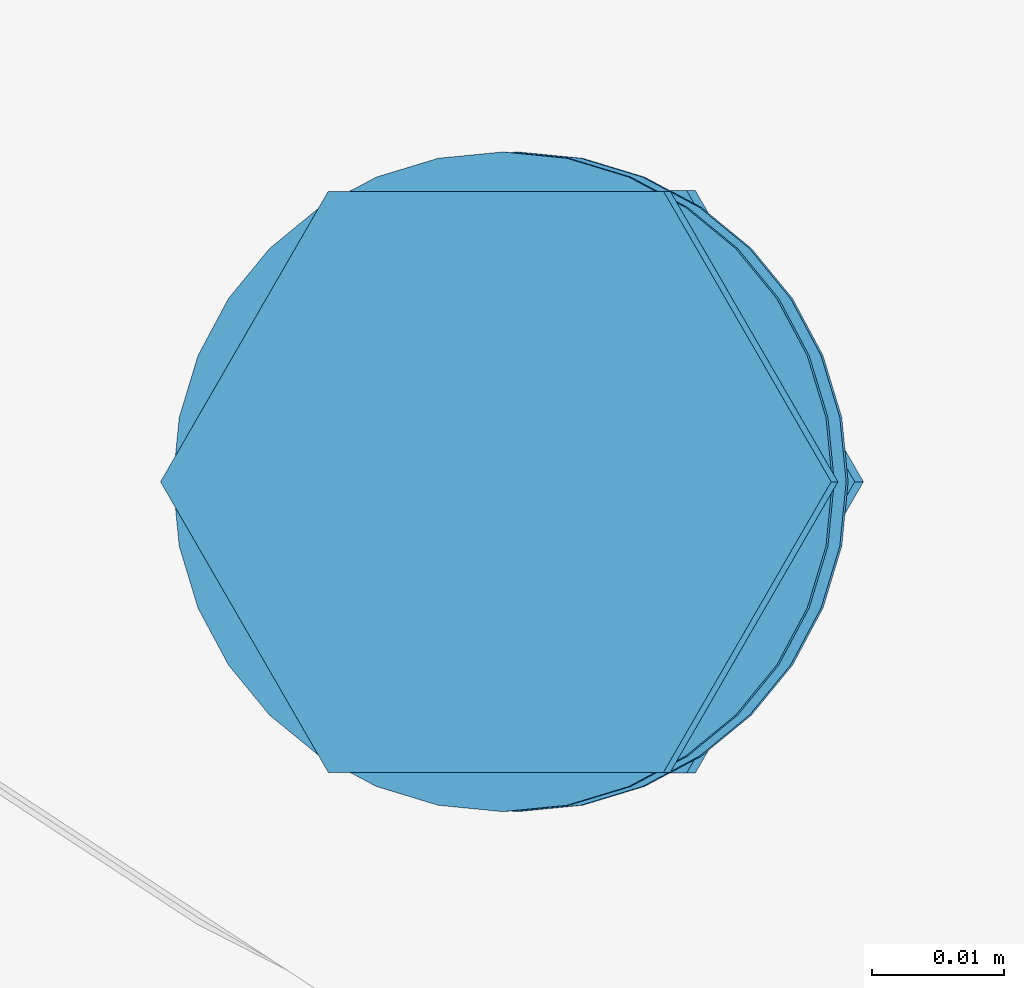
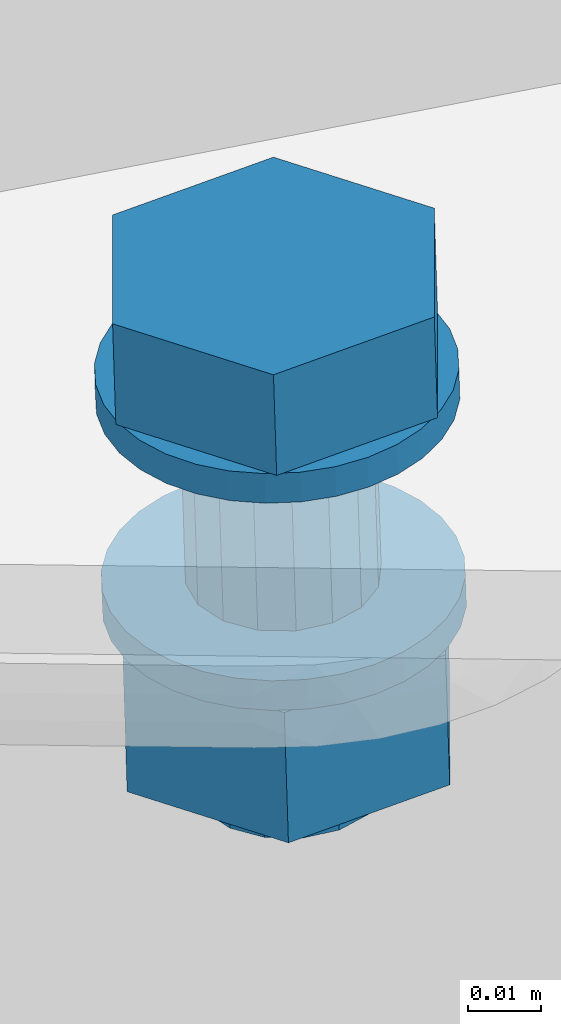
# One storey, part 136 of 476: 1 mechanical fastener.
"""IFC2X3 building model written with IfcOpenShell, lengths in millimetres."""

from ifc_helpers import new_model, entity, si_unit, converted_unit, origin_with_axes, place, context, project, spatial, faceted_brep, element, save


model = new_model("IFC2X3")

# Units and contexts
model_context = context("Model", 3, precision=1e-09, world=origin_with_axes())
ifc_project = project(units=[si_unit("LENGTHUNIT", "METRE", prefix="MILLI"), si_unit("AREAUNIT", "SQUARE_METRE"), si_unit("VOLUMEUNIT", "CUBIC_METRE"), converted_unit("PLANEANGLEUNIT", "DEGREE", entity("IfcPlaneAngleMeasure", 0.01745329), si_unit("PLANEANGLEUNIT", "RADIAN"), dimensions=[0, 0, 0, 0, 0, 0, 0])], contexts=[model_context])

# Site, building, storey
site_placement = place(None, origin_with_axes())
site = spatial("IfcSite", under=ifc_project, at=site_placement, Name="mKR Teilneubau & Sanierung BA1 - Ostfildern", CompositionType="ELEMENT")
building_placement = place(site_placement, origin_with_axes())
building = spatial("IfcBuilding", under=site, at=building_placement, Name="Struktur 1", CompositionType="ELEMENT")
storey_placement = place(building_placement, origin_with_axes())
storey = spatial("IfcBuildingStorey", under=building, at=storey_placement, Name="Default Storey", CompositionType="ELEMENT", Elevation=0.0)

# Mechanical fastener
mechanical_fastener_placement = place(None, origin_with_axes())
element("IfcMechanicalFastener", 1, at=mechanical_fastener_placement, inside=storey, ObjectType="-", NominalDiameter=27.0, NominalLength=70.0, context=model_context, shape_type="Brep", body=[
    faceted_brep([(21736.797269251, -23314.458323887, 5627.173486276), (21736.947219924, -23314.458323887, 5622.175735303), (21732.07215569, -23314.938691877, 5622.029465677), (21731.922205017, -23314.938691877, 5627.02721665), (21727.384437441, -23316.361335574, 5621.88881711), (21727.234486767, -23316.361335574, 5626.886568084), (21723.064211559, -23318.67158358, 5621.759194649), (21722.914260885, -23318.67158358, 5626.756945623), (21719.277501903, -23321.780654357, 5621.645579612), (21719.12755123, -23321.780654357, 5626.643330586), (21716.169829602, -23325.569068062, 5621.55233816), (21716.019878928, -23325.569068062, 5626.550089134), (21713.860620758, -23329.891238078, 5621.483053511), (21713.710670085, -23329.891238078, 5626.480804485), (21712.438616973, -23334.581065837, 5621.440388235), (21712.2886663, -23334.581065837, 5626.438139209), (21711.958465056, -23339.458323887, 5621.425981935), (21711.808514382, -23339.458323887, 5626.423732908), (21712.438616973, -23344.335581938, 5621.440388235), (21712.2886663, -23344.335581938, 5626.438139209), (21713.860620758, -23349.025409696, 5621.483053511), (21713.710670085, -23349.025409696, 5626.480804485), (21716.169829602, -23353.347579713, 5621.55233816), (21716.019878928, -23353.347579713, 5626.550089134), (21719.277501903, -23357.135993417, 5621.645579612), (21719.12755123, -23357.135993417, 5626.643330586), (21723.064211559, -23360.245064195, 5621.759194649), (21722.914260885, -23360.245064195, 5626.756945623), (21727.384437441, -23362.5553122, 5621.88881711), (21727.234486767, -23362.5553122, 5626.886568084), (21732.07215569, -23363.977955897, 5622.029465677), (21731.922205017, -23363.977955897, 5627.02721665), (21736.947219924, -23364.458323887, 5622.175735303), (21736.797269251, -23364.458323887, 5627.173486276), (21741.822284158, -23363.977955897, 5622.322004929), (21741.672333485, -23363.977955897, 5627.319755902), (21746.510002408, -23362.5553122, 5622.462653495), (21746.360051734, -23362.5553122, 5627.460404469), (21750.83022829, -23360.245064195, 5622.592275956), (21750.680277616, -23360.245064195, 5627.59002693), (21754.616937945, -23357.135993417, 5622.705890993), (21754.466987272, -23357.135993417, 5627.703641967), (21757.724610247, -23353.347579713, 5622.799132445), (21757.574659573, -23353.347579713, 5627.796883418), (21760.03381909, -23349.025409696, 5622.868417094), (21759.883868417, -23349.025409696, 5627.866168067), (21761.455822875, -23344.335581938, 5622.91108237), (21761.305872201, -23344.335581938, 5627.908833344), (21761.935974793, -23339.458323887, 5622.925488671), (21761.786024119, -23339.458323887, 5627.923239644), (21761.455822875, -23334.581065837, 5622.91108237), (21761.305872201, -23334.581065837, 5627.908833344), (21760.03381909, -23329.891238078, 5622.868417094), (21759.883868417, -23329.891238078, 5627.866168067), (21757.724610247, -23325.569068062, 5622.799132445), (21757.574659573, -23325.569068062, 5627.796883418), (21754.616937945, -23321.780654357, 5622.705890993), (21754.466987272, -23321.780654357, 5627.703641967), (21750.83022829, -23318.67158358, 5622.592275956), (21750.680277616, -23318.67158358, 5627.59002693), (21746.510002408, -23316.361335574, 5622.462653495), (21746.360051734, -23316.361335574, 5627.460404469), (21741.822284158, -23314.938691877, 5622.322004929), (21741.672333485, -23314.938691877, 5627.319755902)], [[[0, 1, 2, 3]], [[3, 2, 4, 5]], [[5, 4, 6, 7]], [[7, 6, 8, 9]], [[9, 8, 10, 11]], [[11, 10, 12, 13]], [[13, 12, 14, 15]], [[15, 14, 16, 17]], [[17, 16, 18, 19]], [[19, 18, 20, 21]], [[21, 20, 22, 23]], [[23, 22, 24, 25]], [[25, 24, 26, 27]], [[27, 26, 28, 29]], [[29, 28, 30, 31]], [[31, 30, 32, 33]], [[33, 32, 34, 35]], [[35, 34, 36, 37]], [[37, 36, 38, 39]], [[39, 38, 40, 41]], [[41, 40, 42, 43]], [[43, 42, 44, 45]], [[45, 44, 46, 47]], [[47, 46, 48, 49]], [[49, 48, 50, 51]], [[51, 50, 52, 53]], [[53, 52, 54, 55]], [[55, 54, 56, 57]], [[57, 56, 58, 59]], [[59, 58, 60, 61]], [[61, 60, 62, 63]], [[63, 62, 1, 0]], [[0, 3, 5, 7, 9, 11, 13, 15, 17, 19, 21, 23, 25, 27, 29, 31, 33, 35, 37, 39, 41, 43, 45, 47, 49, 51, 53, 55, 57, 59, 61, 63]], [[1, 62, 60, 58, 56, 54, 52, 50, 48, 46, 44, 42, 40, 38, 36, 34, 32, 30, 28, 26, 24, 22, 20, 18, 16, 14, 12, 10, 8, 6, 4, 2]]]),
    faceted_brep([(21724.0904874, -23361.477019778, 5626.792236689), (21723.58065511, -23361.477019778, 5643.784589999), (21710.873873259, -23339.458323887, 5643.403340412), (21711.383705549, -23339.458323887, 5626.410987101), (21723.58065511, -23317.439627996, 5643.784589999), (21724.0904874, -23317.439627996, 5626.792236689), (21748.994218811, -23317.439627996, 5644.547089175), (21749.504051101, -23317.439627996, 5627.554735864), (21761.701000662, -23339.458323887, 5644.928338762), (21762.210832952, -23339.458323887, 5627.935985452), (21748.994218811, -23361.477019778, 5644.547089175), (21749.504051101, -23361.477019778, 5627.554735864)], [[[0, 1, 2, 3]], [[3, 2, 4, 5]], [[5, 4, 6, 7]], [[7, 6, 8, 9]], [[9, 8, 10, 11]], [[11, 10, 1, 0]], [[4, 2, 1, 10, 8, 6]], [[0, 3, 5, 7, 9, 11]]]),
    faceted_brep([(21736.947208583, -23325.958323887, 5622.176113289), (21737.846945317, -23325.958323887, 5592.188517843), (21732.683042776, -23326.985950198, 5592.033582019), (21731.783306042, -23326.985950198, 5622.021177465), (21728.305297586, -23329.912382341, 5591.90223377), (21727.405560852, -23329.912382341, 5621.889829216), (21725.380181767, -23334.29209755, 5591.814469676), (21724.480445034, -23334.29209755, 5621.802065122), (21724.353017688, -23339.458323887, 5591.783651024), (21723.453280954, -23339.458323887, 5621.771246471), (21725.380181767, -23344.624550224, 5591.814469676), (21724.480445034, -23344.624550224, 5621.802065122), (21728.305297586, -23349.004265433, 5591.90223377), (21727.405560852, -23349.004265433, 5621.889829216), (21732.683042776, -23351.930697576, 5592.033582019), (21731.783306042, -23351.930697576, 5622.021177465), (21737.846945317, -23352.958323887, 5592.188517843), (21736.947208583, -23352.958323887, 5622.176113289), (21743.010847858, -23351.930697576, 5592.343453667), (21742.111111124, -23351.930697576, 5622.331049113), (21747.388593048, -23349.004265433, 5592.474801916), (21746.488856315, -23349.004265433, 5622.462397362), (21750.313708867, -23344.624550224, 5592.56256601), (21749.413972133, -23344.624550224, 5622.550161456), (21751.340872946, -23339.458323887, 5592.593384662), (21750.441136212, -23339.458323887, 5622.580980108), (21750.313708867, -23334.29209755, 5592.56256601), (21749.413972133, -23334.29209755, 5622.550161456), (21747.388593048, -23329.912382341, 5592.474801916), (21746.488856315, -23329.912382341, 5622.462397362), (21743.010847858, -23326.985950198, 5592.343453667), (21742.111111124, -23326.985950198, 5622.331049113)], [[[0, 1, 2, 3]], [[3, 2, 4, 5]], [[5, 4, 6, 7]], [[7, 6, 8, 9]], [[9, 8, 10, 11]], [[11, 10, 12, 13]], [[13, 12, 14, 15]], [[15, 14, 16, 17]], [[17, 16, 18, 19]], [[19, 18, 20, 21]], [[21, 20, 22, 23]], [[23, 22, 24, 25]], [[25, 24, 26, 27]], [[27, 26, 28, 29]], [[29, 28, 30, 31]], [[31, 30, 1, 0]], [[0, 3, 5, 7, 9, 11, 13, 15, 17, 19, 21, 23, 25, 27, 29, 31]], [[1, 30, 28, 26, 24, 22, 20, 18, 16, 14, 12, 10, 8, 6, 4, 2]]]),
    faceted_brep([(21737.846945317, -23314.458323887, 5592.188517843), (21737.996895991, -23314.458323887, 5587.190766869), (21733.121831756, -23314.938691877, 5587.044497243), (21732.971881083, -23314.938691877, 5592.042248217), (21728.434113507, -23316.361335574, 5586.903848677), (21728.284162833, -23316.361335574, 5591.901599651), (21724.113887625, -23318.67158358, 5586.774226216), (21723.963936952, -23318.67158358, 5591.77197719), (21720.327177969, -23321.780654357, 5586.660611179), (21720.177227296, -23321.780654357, 5591.658362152), (21717.219505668, -23325.569068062, 5586.567369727), (21717.069554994, -23325.569068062, 5591.565120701), (21714.910296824, -23329.891238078, 5586.498085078), (21714.760346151, -23329.891238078, 5591.495836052), (21713.48829304, -23334.581065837, 5586.455419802), (21713.338342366, -23334.581065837, 5591.453170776), (21713.008141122, -23339.458323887, 5586.441013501), (21712.858190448, -23339.458323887, 5591.438764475), (21713.48829304, -23344.335581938, 5586.455419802), (21713.338342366, -23344.335581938, 5591.453170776), (21714.910296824, -23349.025409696, 5586.498085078), (21714.760346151, -23349.025409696, 5591.495836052), (21717.219505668, -23353.347579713, 5586.567369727), (21717.069554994, -23353.347579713, 5591.565120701), (21720.327177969, -23357.135993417, 5586.660611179), (21720.177227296, -23357.135993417, 5591.658362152), (21724.113887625, -23360.245064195, 5586.774226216), (21723.963936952, -23360.245064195, 5591.77197719), (21728.434113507, -23362.5553122, 5586.903848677), (21728.284162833, -23362.5553122, 5591.901599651), (21733.121831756, -23363.977955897, 5587.044497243), (21732.971881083, -23363.977955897, 5592.042248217), (21737.996895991, -23364.458323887, 5587.190766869), (21737.846945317, -23364.458323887, 5592.188517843), (21742.871960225, -23363.977955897, 5587.337036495), (21742.722009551, -23363.977955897, 5592.334787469), (21747.559678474, -23362.5553122, 5587.477685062), (21747.409727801, -23362.5553122, 5592.475436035), (21751.879904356, -23360.245064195, 5587.607307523), (21751.729953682, -23360.245064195, 5592.605058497), (21755.666614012, -23357.135993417, 5587.72092256), (21755.516663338, -23357.135993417, 5592.718673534), (21758.774286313, -23353.347579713, 5587.814164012), (21758.62433564, -23353.347579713, 5592.811914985), (21761.083495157, -23349.025409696, 5587.883448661), (21760.933544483, -23349.025409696, 5592.881199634), (21762.505498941, -23344.335581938, 5587.926113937), (21762.355548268, -23344.335581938, 5592.92386491), (21762.985650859, -23339.458323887, 5587.940520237), (21762.835700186, -23339.458323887, 5592.938271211), (21762.505498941, -23334.581065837, 5587.926113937), (21762.355548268, -23334.581065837, 5592.92386491), (21761.083495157, -23329.891238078, 5587.883448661), (21760.933544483, -23329.891238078, 5592.881199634), (21758.774286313, -23325.569068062, 5587.814164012), (21758.62433564, -23325.569068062, 5592.811914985), (21755.666614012, -23321.780654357, 5587.72092256), (21755.516663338, -23321.780654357, 5592.718673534), (21751.879904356, -23318.67158358, 5587.607307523), (21751.729953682, -23318.67158358, 5592.605058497), (21747.559678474, -23316.361335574, 5587.477685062), (21747.409727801, -23316.361335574, 5592.475436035), (21742.871960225, -23314.938691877, 5587.337036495), (21742.722009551, -23314.938691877, 5592.334787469)], [[[0, 1, 2, 3]], [[3, 2, 4, 5]], [[5, 4, 6, 7]], [[7, 6, 8, 9]], [[9, 8, 10, 11]], [[11, 10, 12, 13]], [[13, 12, 14, 15]], [[15, 14, 16, 17]], [[17, 16, 18, 19]], [[19, 18, 20, 21]], [[21, 20, 22, 23]], [[23, 22, 24, 25]], [[25, 24, 26, 27]], [[27, 26, 28, 29]], [[29, 28, 30, 31]], [[31, 30, 32, 33]], [[33, 32, 34, 35]], [[35, 34, 36, 37]], [[37, 36, 38, 39]], [[39, 38, 40, 41]], [[41, 40, 42, 43]], [[43, 42, 44, 45]], [[45, 44, 46, 47]], [[47, 46, 48, 49]], [[49, 48, 50, 51]], [[51, 50, 52, 53]], [[53, 52, 54, 55]], [[55, 54, 56, 57]], [[57, 56, 58, 59]], [[59, 58, 60, 61]], [[61, 60, 62, 63]], [[63, 62, 1, 0]], [[0, 3, 5, 7, 9, 11, 13, 15, 17, 19, 21, 23, 25, 27, 29, 31, 33, 35, 37, 39, 41, 43, 45, 47, 49, 51, 53, 55, 57, 59, 61, 63]], [[1, 62, 60, 58, 56, 54, 52, 50, 48, 46, 44, 42, 40, 38, 36, 34, 32, 30, 28, 26, 24, 22, 20, 18, 16, 14, 12, 10, 8, 6, 4, 2]]]),
    faceted_brep([(21725.912413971, -23361.541971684, 5564.818288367), (21725.252631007, -23361.541971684, 5586.808392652), (21712.508366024, -23339.458323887, 5586.426018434), (21713.168148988, -23339.458323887, 5564.43591415), (21725.252631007, -23317.374676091, 5586.808392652), (21725.912413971, -23317.374676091, 5564.818288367), (21750.741160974, -23317.374676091, 5587.573141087), (21751.400943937, -23317.374676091, 5565.583036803), (21763.485425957, -23339.458323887, 5587.955515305), (21764.14520892, -23339.458323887, 5565.96541102), (21750.741160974, -23361.541971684, 5587.573141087), (21751.400943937, -23361.541971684, 5565.583036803)], [[[0, 1, 2, 3]], [[3, 2, 4, 5]], [[5, 4, 6, 7]], [[7, 6, 8, 9]], [[9, 8, 10, 11]], [[11, 10, 1, 0]], [[4, 2, 1, 10, 8, 6]], [[0, 3, 5, 7, 9, 11]]]),
    faceted_brep([(21738.656690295, -23325.958323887, 5565.200284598), (21738.896578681, -23325.958323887, 5557.204972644), (21733.73267614, -23326.985950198, 5557.05003682), (21733.492787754, -23326.985950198, 5565.045348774), (21729.35493095, -23329.912382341, 5556.918688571), (21729.115042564, -23329.912382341, 5564.914000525), (21726.429815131, -23334.29209755, 5556.830924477), (21726.189926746, -23334.29209755, 5564.826236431), (21725.402651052, -23339.458323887, 5556.800105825), (21725.162762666, -23339.458323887, 5564.79541778), (21726.429815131, -23344.624550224, 5556.830924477), (21726.189926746, -23344.624550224, 5564.826236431), (21729.35493095, -23349.004265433, 5556.918688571), (21729.115042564, -23349.004265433, 5564.914000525), (21733.73267614, -23351.930697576, 5557.05003682), (21733.492787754, -23351.930697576, 5565.045348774), (21738.896578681, -23352.958323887, 5557.204972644), (21738.656690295, -23352.958323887, 5565.200284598), (21744.060481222, -23351.930697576, 5557.359908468), (21743.820592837, -23351.930697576, 5565.355220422), (21748.438226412, -23349.004265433, 5557.491256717), (21748.198338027, -23349.004265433, 5565.486568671), (21751.363342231, -23344.624550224, 5557.579020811), (21751.123453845, -23344.624550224, 5565.574332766), (21752.39050631, -23339.458323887, 5557.609839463), (21752.150617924, -23339.458323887, 5565.605151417), (21751.363342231, -23334.29209755, 5557.579020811), (21751.123453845, -23334.29209755, 5565.574332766), (21748.438226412, -23329.912382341, 5557.491256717), (21748.198338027, -23329.912382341, 5565.486568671), (21744.060481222, -23326.985950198, 5557.359908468), (21743.820592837, -23326.985950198, 5565.355220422)], [[[0, 1, 2, 3]], [[3, 2, 4, 5]], [[5, 4, 6, 7]], [[7, 6, 8, 9]], [[9, 8, 10, 11]], [[11, 10, 12, 13]], [[13, 12, 14, 15]], [[15, 14, 16, 17]], [[17, 16, 18, 19]], [[19, 18, 20, 21]], [[21, 20, 22, 23]], [[23, 22, 24, 25]], [[25, 24, 26, 27]], [[27, 26, 28, 29]], [[29, 28, 30, 31]], [[31, 30, 1, 0]], [[0, 3, 5, 7, 9, 11, 13, 15, 17, 19, 21, 23, 25, 27, 29, 31]], [[1, 30, 28, 26, 24, 22, 20, 18, 16, 14, 12, 10, 8, 6, 4, 2]]]),
])

save(model, "model.ifc")
